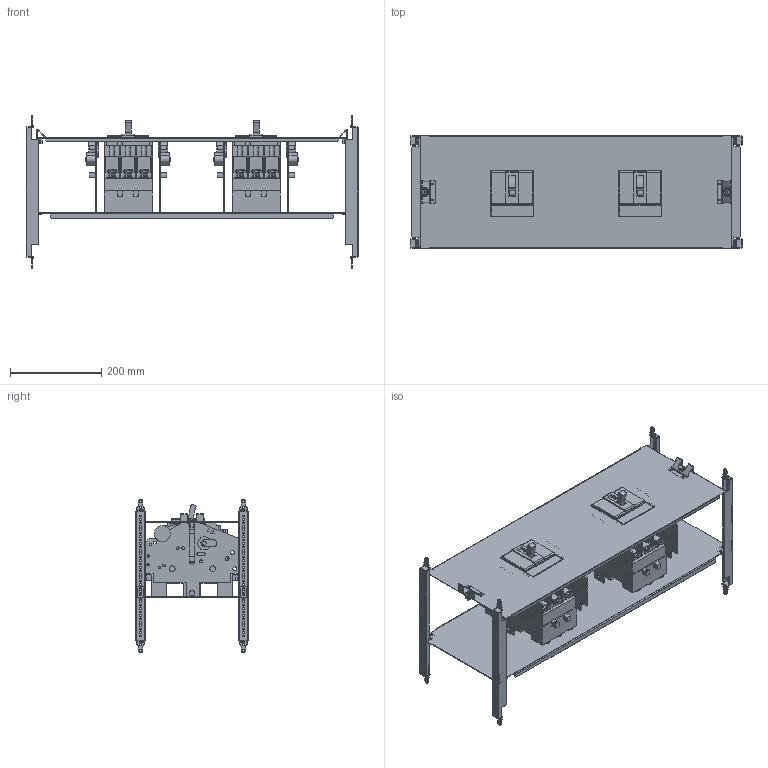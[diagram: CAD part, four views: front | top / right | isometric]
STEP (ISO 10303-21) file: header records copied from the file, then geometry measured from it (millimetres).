
FILE_DESCRIPTION(('CAx-IF Rec.Pracs.---Model Styling and Organization---1.2---2011-12-15','CAx-IF Rec.Pracs.---Geometric and Assembly Validation Properties---4.1---2014-06-16','CAx-IF Rec.Pracs.---PMI Polyline Presentation---2.0---2013-05-24'),'2;1');
FILE_NAME('R5PKIB7V81913 (W).stp','2021-07-29T03:20:51+03:00',(''),(''),'STEP Interface 4.4 by CT CoreTechnologie','3D_Evolution4.4 by CT CoreTechnologie','');
FILE_SCHEMA(('AUTOMOTIVE_DESIGN { 1 0 10303 214 1 1 1 1 }'));
Length unit declared in the file: millimetre
Products named in the file (1): R5PKIB7V81913 (W)
Bounding box: 726 x 248 x 335 mm (x, y, z)
Surface area: 1592054.2 mm2 (no closed solid volume)
Topology: 0 solids, 81 shells, 3236 faces, 9434 edges, 6382 vertices
Faces by surface type: plane 2238, cylinder 896, bspline 102
Entity records: 108884 total; most frequent: CARTESIAN_POINT 20405, ORIENTED_EDGE 18832, DIRECTION 17598, EDGE_CURVE 9422, VECTOR 7440, LINE 7440, VERTEX_POINT 6418, AXIS2_PLACEMENT_3D 5079
